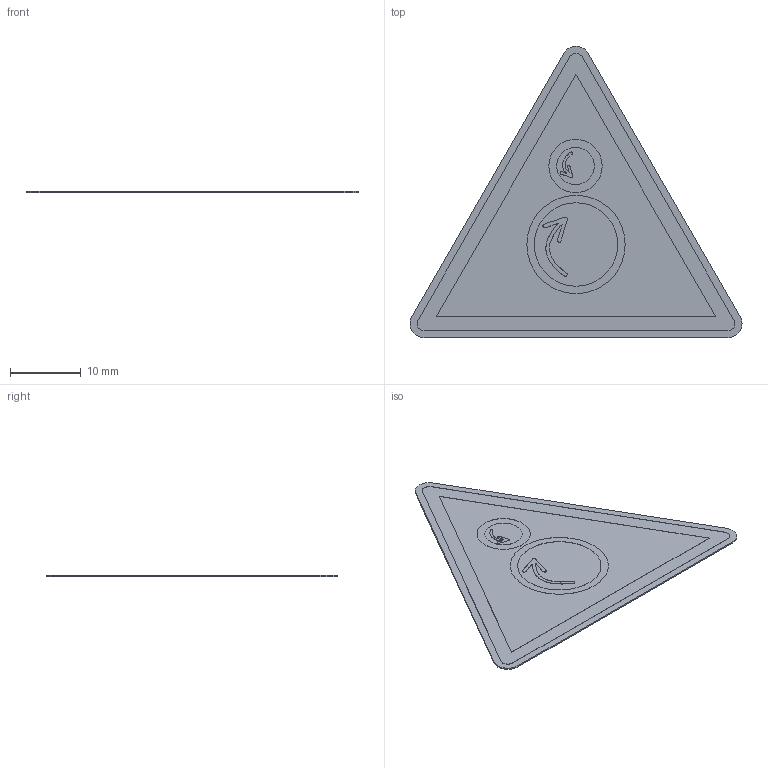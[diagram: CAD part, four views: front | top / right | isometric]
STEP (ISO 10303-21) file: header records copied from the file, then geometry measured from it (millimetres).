
FILE_DESCRIPTION (( 'STEP AP214' ), '1' );
FILE_NAME ('W025_Warnung vor gegenläufigen Rollen.STEP', '2022-02-22T08:21:38', ( '' ), ( '' ), 'SwSTEP 2.0', 'SolidWorks 2021', '' );
FILE_SCHEMA (( 'AUTOMOTIVE_DESIGN' ));
Length unit declared in the file: millimetre
Products named in the file (1): W025_Warnung vor gegenläufigen Rollen
Bounding box: 47.07 x 41.3 x 0.22 mm (x, y, z)
Volume: 220.8 mm3; surface area: 2183.5 mm2
Topology: 1 solids, 1 shells, 39 faces, 87 edges, 58 vertices
Faces by surface type: plane 19, cylinder 16, bspline 4
Entity records: 1848 total; most frequent: CARTESIAN_POINT 637, DIRECTION 183, ORIENTED_EDGE 174, EDGE_CURVE 87, AXIS2_PLACEMENT_3D 68, VERTEX_POINT 58, VECTOR 47, EDGE_LOOP 47
